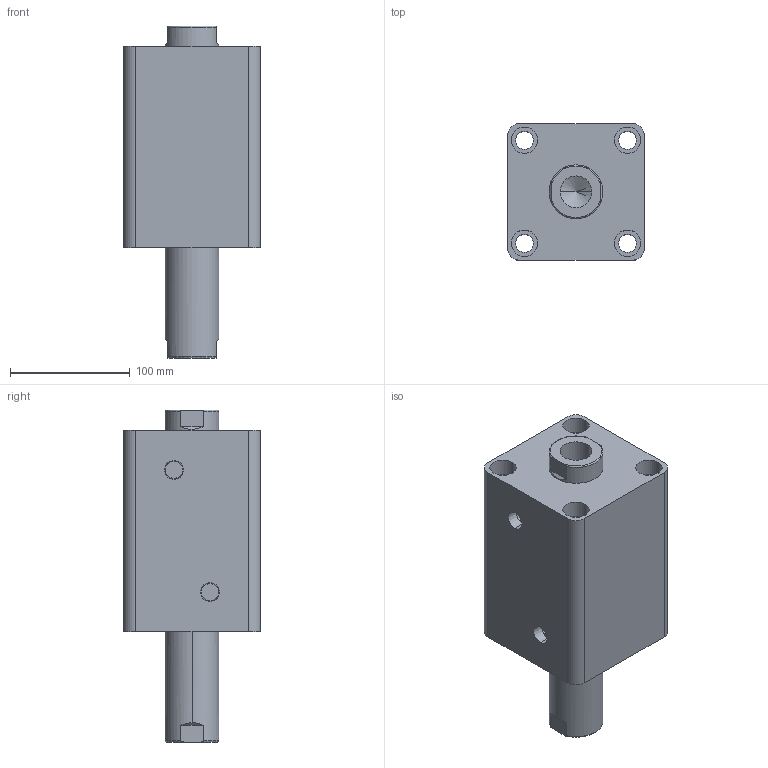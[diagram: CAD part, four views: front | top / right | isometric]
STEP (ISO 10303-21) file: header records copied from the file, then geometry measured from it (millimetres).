
FILE_DESCRIPTION (( 'STEP AP203' ), '1' );
FILE_NAME ('HTB-SW80-75N.STEP', '2019-10-07T10:25:42', ( '微软用户' ), ( '微软中国' ), 'SwSTEP 2.0', 'SolidWorks 2012', '' );
FILE_SCHEMA (( 'CONFIG_CONTROL_DESIGN' ));
Length unit declared in the file: millimetre
Products named in the file (3): HTB-SW80-75N; HTB-SW80-75N活塞杆; HTB-SW80-75掛极
Assembly tree (2 placements, depth 2):
  HTB-SW80-75N
    HTB-SW80-75掛极
    HTB-SW80-75N活塞杆
Bounding box: 114 x 114 x 277 mm (x, y, z)
Volume: 1905326.6 mm3; surface area: 229429.3 mm2
Topology: 2 solids, 2 shells, 100 faces, 228 edges, 146 vertices
Faces by surface type: cylinder 48, plane 32, torus 12, cone 8
Entity records: 3237 total; most frequent: CARTESIAN_POINT 595, DIRECTION 542, ORIENTED_EDGE 448, AXIS2_PLACEMENT_3D 229, EDGE_CURVE 224, VERTEX_POINT 146, EDGE_LOOP 128, CIRCLE 124
